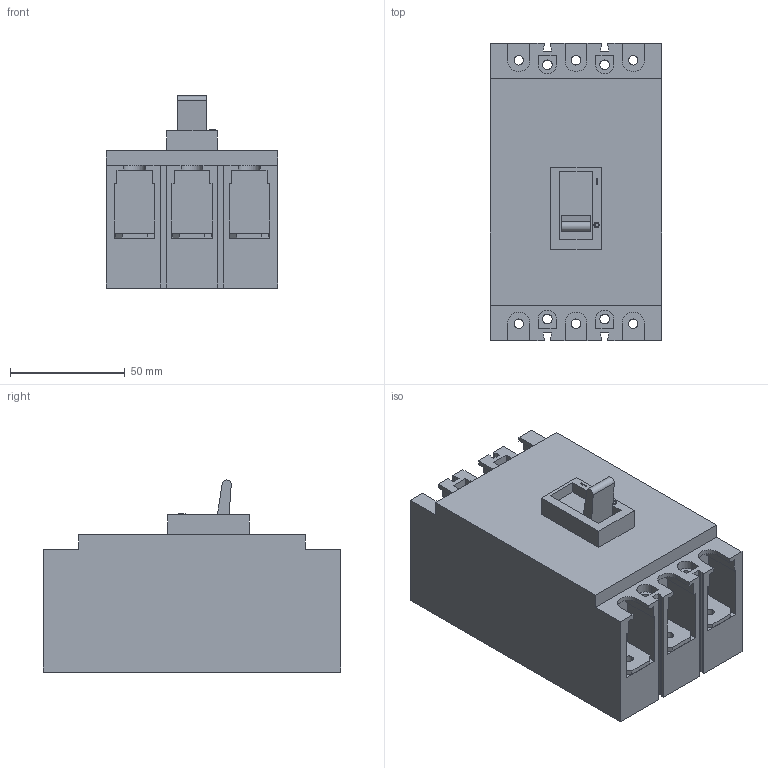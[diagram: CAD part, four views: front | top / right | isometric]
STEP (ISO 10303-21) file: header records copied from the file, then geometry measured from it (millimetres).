
FILE_DESCRIPTION (( 'STEP AP214' ), '1' );
FILE_NAME ('OptiMat E100.STEP', '2023-11-03T08:24:18', ( '' ), ( '' ), 'SwSTEP 2.0', 'SolidWorks 2018', '' );
FILE_SCHEMA (( 'AUTOMOTIVE_DESIGN' ));
Length unit declared in the file: millimetre
Products named in the file (1): OptiMat E100
Bounding box: 75 x 130 x 83.85 mm (x, y, z)
Volume: 516371.1 mm3; surface area: 62416.8 mm2
Topology: 1 solids, 1 shells, 237 faces, 663 edges, 442 vertices
Faces by surface type: plane 197, cylinder 40
Entity records: 7611 total; most frequent: CARTESIAN_POINT 1343, ORIENTED_EDGE 1326, DIRECTION 1219, EDGE_CURVE 663, VECTOR 583, LINE 583, VERTEX_POINT 442, AXIS2_PLACEMENT_3D 318
